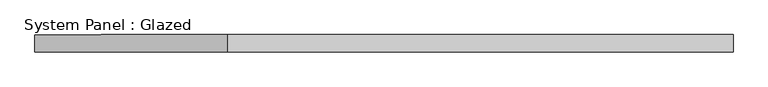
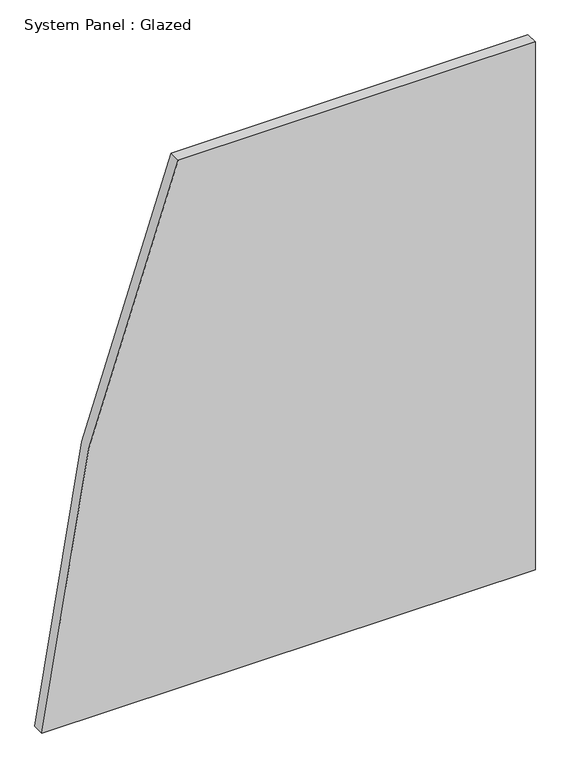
"""IFC4 building model written with IfcOpenShell, lengths in millimetres: plate geometry, System Panel : Glazed."""

from ifc_helpers import new_model, si_unit, point, frame, frame_2d, origin, place, context, project, spatial, polyline, circle_curve, trimmed, segment, composite_curve, outline, extrude, source, transform, mapped, element, save


def system_panel_glazed_97e10390(model_context):
    return source(origin(), model_context, "Body", "SweptSolid", [
        extrude(outline(composite_curve([segment(polyline([(0.0, -511.1558805), (0.0, 511.1558805), (1155.7, 511.1558805), (1155.7, -228.8371598)]), True, "CONTINUOUS"), segment(trimmed(circle_curve(frame_2d((-336.55, 3373.1915946)), 3898.9), [point((1155.7, -228.8371598))], [point((0.0, -511.1558805))], False, "CARTESIAN"), True, "CONTINUOUS")], self_intersect=False)), frame((0.0, 19.05, 0.0), z_axis=(0.0, 1.0, 0.0), x_axis=(0.0, 0.0, 1.0)), (0.0, 0.0, 1.0), 25.4),
    ])


if __name__ == "__main__":
    model = new_model("IFC4")
    model_context = context("Model", 3, world=origin())
    ifc_project = project(units=[si_unit("LENGTHUNIT", "METRE", prefix="MILLI")], contexts=[model_context])
    site = spatial("IfcSite", under=ifc_project)
    building = spatial("IfcBuilding", under=site)
    placement = place(None, origin())
    system_panel_glazed_shape = system_panel_glazed_97e10390(model_context)
    element("IfcPlate", 1, ObjectType="System Panel : Glazed", at=placement, inside=building, context=model_context, shape_type="MappedRepresentation", body=[
        mapped(system_panel_glazed_shape, transform((0.0, 0.0, 0.0), x_axis=(1.0, 0.0, 0.0), y_axis=(0.0, 1.0, 0.0), z_axis=(0.0, 0.0, 1.0))),
    ])
    save(model, "model.ifc")
